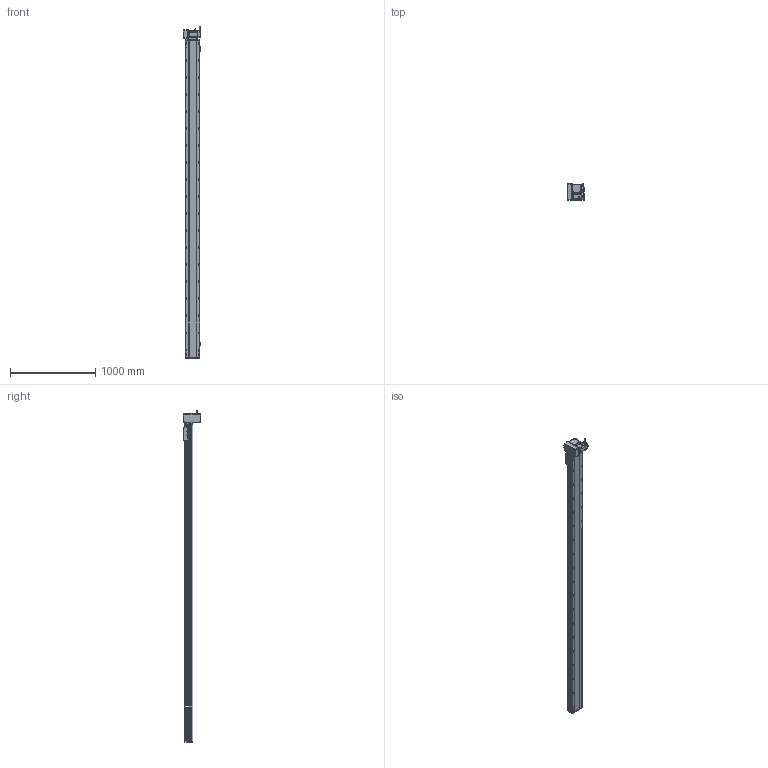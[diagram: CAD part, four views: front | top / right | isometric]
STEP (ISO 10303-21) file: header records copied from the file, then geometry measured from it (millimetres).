
FILE_DESCRIPTION (( 'STEP AP214' ), '1' );
FILE_NAME ('RTB17S-XX-3450-LM-M75-C4.STEP', '2025-12-12T00:52:23', ( '' ), ( '' ), 'SwSTEP 2.0', 'SolidWorks 2018', '' );
FILE_SCHEMA (( 'AUTOMOTIVE_DESIGN' ));
Length unit declared in the file: millimetre
Products named in the file (15): RTB17S-XX-3450-LM-M75-C4; RTB22S-GY-018P^RTB17S-LM-々湍釱蚾饜-750W_RTB17S-XX-XX-LM-M75-C4; RTB17S-賑釱^RTB17S-XX-XX-LM-M75-C4; RTB17S-L-007奻裔^RTB17S-XX-XX-LM-M75-C4; EE672^RTB17S-XX-XX-LM-M75-C4; RTH13-BL-012覜茼え俋离^RTB17S-賑釱_RTB17S-XX-XX-LM-M75-C4; RTB22S-GY-008-M75--萇儂啣^RTB17S-LM-々湍釱蚾饜-750W_RTB17S-XX-XX-LM-M75-C4; RTB22S-GY-005P^RTB17S-LM-々湍釱蚾饜-750W_RTB17S-XX-XX-LM-M75-C4; 750W萇儂^RTB17S-XX-XX-LM-M75-C4; RTB22S-GY-017P^RTB17S-LM-々湍釱蚾饜-750W_RTB17S-XX-XX-LM-M75-C4; RTB17S-L-014-T20-P75--々湍釱^RTB17S-LM-々湍釱蚾饜-750W_RTB17S-XX-XX-LM-M75-C4; RTB17-R-011菁釱^RTB17S-XX-XX-LM-M75-C4; RTB17S-L-004-賑釱^RTB17S-賑釱_RTB17S-XX-XX-LM-M75-C4; RTB17S-L-001-耜醱啣^RTB17S-XX-XX-LM-M75-C4; RTB17S-LM-々湍釱蚾饜-750W^RTB17S-XX-XX-LM-M75-C4
Assembly tree (17 placements, depth 3):
  RTB17S-XX-3450-LM-M75-C4
    RTB17-R-011菁釱^RTB17S-XX-XX-LM-M75-C4
    EE672^RTB17S-XX-XX-LM-M75-C4  x3
    RTB17S-L-001-耜醱啣^RTB17S-XX-XX-LM-M75-C4
    RTB17S-賑釱^RTB17S-XX-XX-LM-M75-C4
      RTB17S-L-004-賑釱^RTB17S-賑釱_RTB17S-XX-XX-LM-M75-C4
      RTH13-BL-012覜茼え俋离^RTB17S-賑釱_RTB17S-XX-XX-LM-M75-C4
    RTB17S-L-007奻裔^RTB17S-XX-XX-LM-M75-C4
    750W萇儂^RTB17S-XX-XX-LM-M75-C4
    RTB17S-LM-々湍釱蚾饜-750W^RTB17S-XX-XX-LM-M75-C4
      RTB17S-L-014-T20-P75--々湍釱^RTB17S-LM-々湍釱蚾饜-750W_RTB17S-XX-XX-LM-M75-C4
      RTB22S-GY-005P^RTB17S-LM-々湍釱蚾饜-750W_RTB17S-XX-XX-LM-M75-C4
      RTB22S-GY-017P^RTB17S-LM-々湍釱蚾饜-750W_RTB17S-XX-XX-LM-M75-C4  x2
      RTB22S-GY-008-M75--萇儂啣^RTB17S-LM-々湍釱蚾饜-750W_RTB17S-XX-XX-LM-M75-C4
      RTB22S-GY-018P^RTB17S-LM-々湍釱蚾饜-750W_RTB17S-XX-XX-LM-M75-C4
Bounding box: 210.4 x 200 x 3902.2 mm (x, y, z)
Volume: 27511236 mm3; surface area: 5082124.3 mm2
Topology: 17 solids, 17 shells, 2297 faces, 6484 edges, 4202 vertices
Faces by surface type: plane 996, cylinder 885, bspline 294, cone 110, sphere 8, torus 4
Entity records: 68086 total; most frequent: CARTESIAN_POINT 20348, ORIENTED_EDGE 9812, DIRECTION 9032, EDGE_CURVE 4906, AXIS2_PLACEMENT_3D 3222, VERTEX_POINT 3206, VECTOR 2588, LINE 2588
